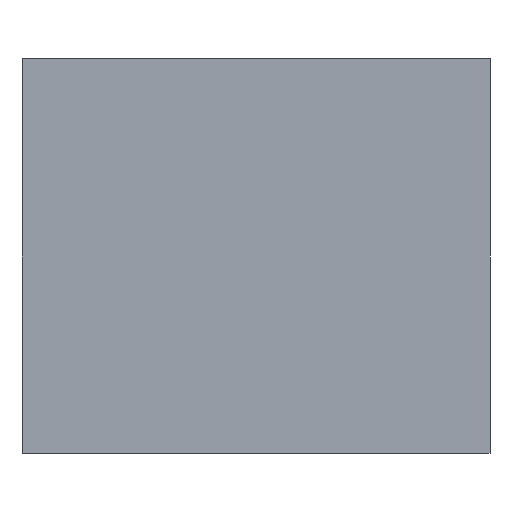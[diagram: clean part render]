
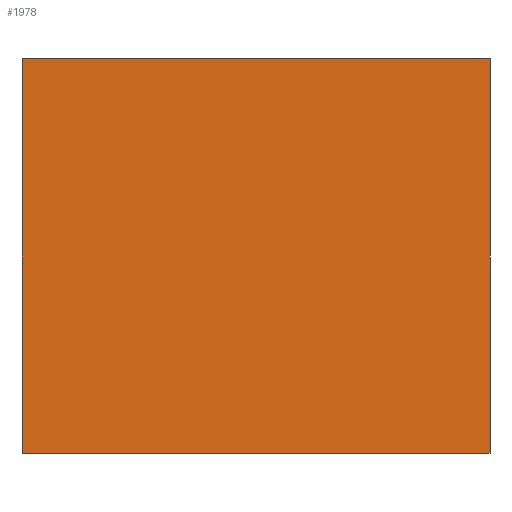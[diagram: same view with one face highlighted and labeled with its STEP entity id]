
A CAD part, front view. The second image highlights one B-rep face of the part: STEP entity #1978.
In plain terms, the highlighted planar face has unit normal (0, -1, 0).
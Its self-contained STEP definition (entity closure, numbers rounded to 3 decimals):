
#167 = CARTESIAN_POINT ( 'NONE',  ( 16.129, -0.127, -13.589 ) ) ;
#246 = ORIENTED_EDGE ( 'NONE', *, *, #1330, .F. ) ;
#281 = EDGE_CURVE ( 'NONE', #1898, #2569, #3092, .T. ) ;
#477 = CARTESIAN_POINT ( 'NONE',  ( 16.129, -0.127, -13.589 ) ) ;
#601 = CARTESIAN_POINT ( 'NONE',  ( -16.129, -0.127, -13.589 ) ) ;
#768 = PLANE ( 'NONE',  #2985 ) ;
#800 = VECTOR ( 'NONE', #2723, 1000. ) ;
#1270 = DIRECTION ( 'NONE',  ( 0., 0., 1. ) ) ;
#1294 = VERTEX_POINT ( 'NONE', #1522 ) ;
#1330 = EDGE_CURVE ( 'NONE', #2569, #1294, #2994, .T. ) ;
#1371 = FACE_OUTER_BOUND ( 'NONE', #2227, .T. ) ;
#1408 = ORIENTED_EDGE ( 'NONE', *, *, #281, .F. ) ;
#1468 = DIRECTION ( 'NONE',  ( 1., 0., 0. ) ) ;
#1502 = EDGE_CURVE ( 'NONE', #1294, #1706, #2007, .T. ) ;
#1522 = CARTESIAN_POINT ( 'NONE',  ( -16.129, -0.127, -13.589 ) ) ;
#1538 = CARTESIAN_POINT ( 'NONE',  ( -16.129, -0.127, -13.589 ) ) ;
#1607 = CARTESIAN_POINT ( 'NONE',  ( -16.129, -0.127, 13.589 ) ) ;
#1681 = LINE ( 'NONE', #2721, #3437 ) ;
#1706 = VERTEX_POINT ( 'NONE', #3088 ) ;
#1891 = ORIENTED_EDGE ( 'NONE', *, *, #1502, .F. ) ;
#1898 = VERTEX_POINT ( 'NONE', #2698 ) ;
#1978 = ADVANCED_FACE ( 'NONE', ( #1371 ), #768, .F. ) ;
#2007 = LINE ( 'NONE', #1538, #2420 ) ;
#2048 = VECTOR ( 'NONE', #3395, 1000. ) ;
#2227 = EDGE_LOOP ( 'NONE', ( #1891, #246, #1408, #2634 ) ) ;
#2420 = VECTOR ( 'NONE', #1270, 1000. ) ;
#2569 = VERTEX_POINT ( 'NONE', #167 ) ;
#2634 = ORIENTED_EDGE ( 'NONE', *, *, #3029, .F. ) ;
#2698 = CARTESIAN_POINT ( 'NONE',  ( 16.129, -0.127, 13.589 ) ) ;
#2721 = CARTESIAN_POINT ( 'NONE',  ( -16.129, -0.127, 13.589 ) ) ;
#2723 = DIRECTION ( 'NONE',  ( -1., 0., 0. ) ) ;
#2985 = AXIS2_PLACEMENT_3D ( 'NONE', #1607, #3406, #3190 ) ;
#2994 = LINE ( 'NONE', #601, #800 ) ;
#3029 = EDGE_CURVE ( 'NONE', #1706, #1898, #1681, .T. ) ;
#3088 = CARTESIAN_POINT ( 'NONE',  ( -16.129, -0.127, 13.589 ) ) ;
#3092 = LINE ( 'NONE', #477, #2048 ) ;
#3190 = DIRECTION ( 'NONE',  ( 0., 0., 1. ) ) ;
#3395 = DIRECTION ( 'NONE',  ( 0., 0., -1. ) ) ;
#3406 = DIRECTION ( 'NONE',  ( 0., 1., 0. ) ) ;
#3437 = VECTOR ( 'NONE', #1468, 1000. ) ;
